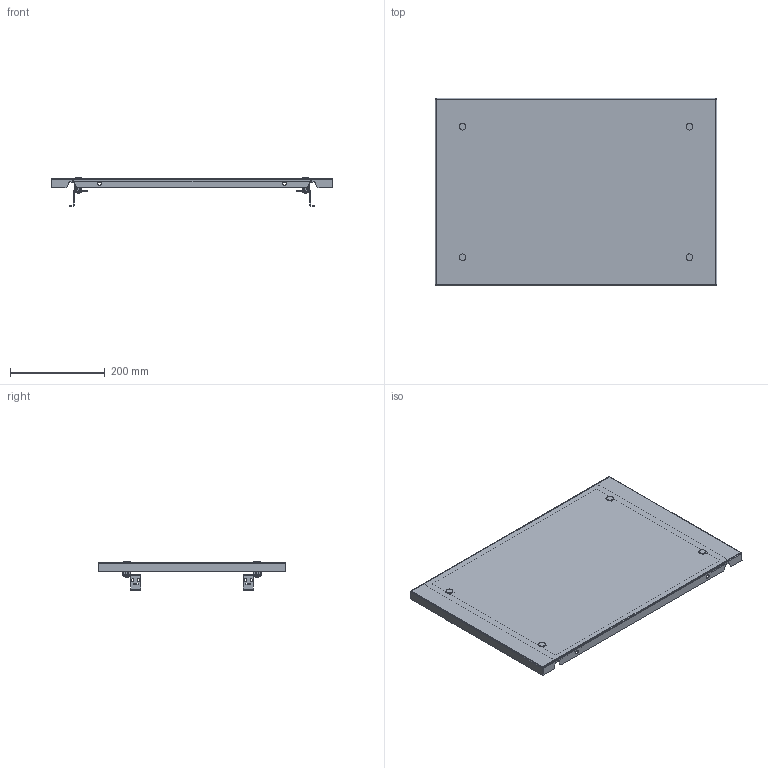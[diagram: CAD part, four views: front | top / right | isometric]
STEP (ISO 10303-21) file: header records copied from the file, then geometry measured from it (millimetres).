
FILE_DESCRIPTION(('CAx-IF Rec.Pracs.---Model Styling and Organization---1.2---2011-12-15','CAx-IF Rec.Pracs.---Geometric and Assembly Validation Properties---4.1---2014-06-16','CAx-IF Rec.Pracs.---PMI Polyline Presentation---2.0---2013-05-24'),'2;1');
FILE_NAME('R5CPFEM6400.stp','2021-05-06T03:38:41+03:00',(''),(''),'STEP Interface 4.4 by CT CoreTechnologie','3D_Evolution4.4 by CT CoreTechnologie','');
FILE_SCHEMA(('AUTOMOTIVE_DESIGN { 1 0 10303 214 1 1 1 1 }'));
Length unit declared in the file: millimetre
Products named in the file (11): R5CPFEM6400; A1100001; RB.0555.00.00.0 ÑÁ_-25; PF 7x14 R5CPFEM_0400x0600; Ì6õ12-A5100231_straight; AC00C061_AC00C061; RB.0555.00.01.0_-25; AC00C172_AC00C172; RB.0544.00.00.1_-01; RB.0544.00.00.1_-00; M6x16-DIN 7985 ISR_thread
Assembly tree (21 placements, depth 3):
  R5CPFEM6400
    A1100001  x4
    RB.0555.00.00.0 ÑÁ_-25
      PF 7x14 R5CPFEM_0400x0600
      Ì6õ12-A5100231_straight
      AC00C061_AC00C061
      RB.0555.00.01.0_-25
    AC00C172_AC00C172  x4
    RB.0544.00.00.1_-01  x2
    RB.0544.00.00.1_-00  x2
    M6x16-DIN 7985 ISR_thread  x4
Bounding box: 594 x 395 x 61 mm (x, y, z)
Surface area: 630235.3 mm2 (no closed solid volume)
Topology: 0 solids, 30 shells, 442 faces, 1131 edges, 753 vertices
Faces by surface type: plane 286, cylinder 120, bspline 36
Entity records: 8470 total; most frequent: CARTESIAN_POINT 1990, ORIENTED_EDGE 1214, DIRECTION 1196, EDGE_CURVE 607, VECTOR 438, LINE 438, VERTEX_POINT 405, AXIS2_PLACEMENT_3D 379
